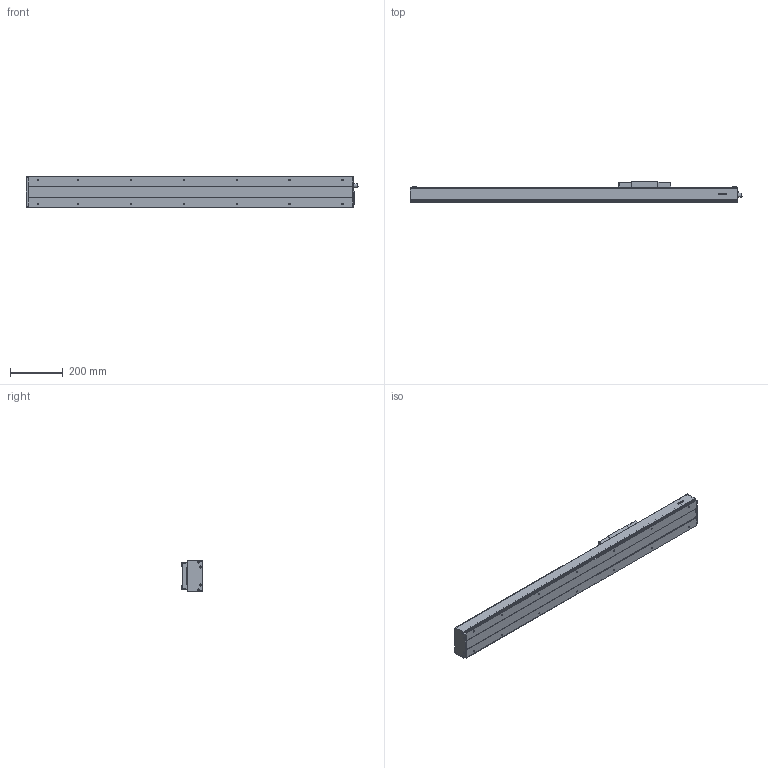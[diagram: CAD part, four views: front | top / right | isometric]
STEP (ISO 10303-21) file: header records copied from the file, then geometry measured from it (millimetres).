
FILE_DESCRIPTION(/* description */ (''),/* implementation_level */ '2;1');
FILE_NAME(/* name */ 'D:\混合母檔20191031\混和母檔\混和母檔\bin\Debug\Download\3D\KS120-20C-750AFI\KS120-20C-750AFI.stp',/* time_stamp */ '2019-11-04T15:26:52+08:00',/* author */ ('user'),/* organization */ (''),/* preprocessor_version */ 'ST-DEVELOPER v16.13',/* originating_system */ 'Autodesk Inventor 2018',/* authorisation */ '');
FILE_SCHEMA (('AUTOMOTIVE_DESIGN { 1 0 10303 214 3 1 1 }'));
Length unit declared in the file: millimetre
Products named in the file (3): KS120-20C-750AFI; KS120-FI; KS120-SL
Assembly tree (2 placements, depth 2):
  KS120-20C-750AFI
    KS120-FI
    KS120-SL
Bounding box: 1254.5 x 77 x 120 mm (x, y, z)
Volume: 2957093.2 mm3; surface area: 980882.9 mm2
Topology: 4 solids, 11 shells, 999 faces, 2567 edges, 1658 vertices
Faces by surface type: plane 575, cylinder 188, bspline 136, cone 82, torus 14, sphere 4
Full cylindrical faces by diameter (mm): 2.459 x6, 3.242 x4, 4 x32, 4.3 x4, 4.5 x12, 4.917 x14, 6 x6, 7 x4, 8 x9, 8.4 x12, 10.437 x1, 12 x2, 14 x1, 15 x1, 15.538 x1, 19 x1, 28 x1, 30 x1
Entity records: 33105 total; most frequent: CARTESIAN_POINT 10630, ORIENTED_EDGE 4570, DIRECTION 4185, EDGE_CURVE 2283, VERTEX_POINT 1574, LINE 1533, VECTOR 1533, AXIS2_PLACEMENT_3D 1326
